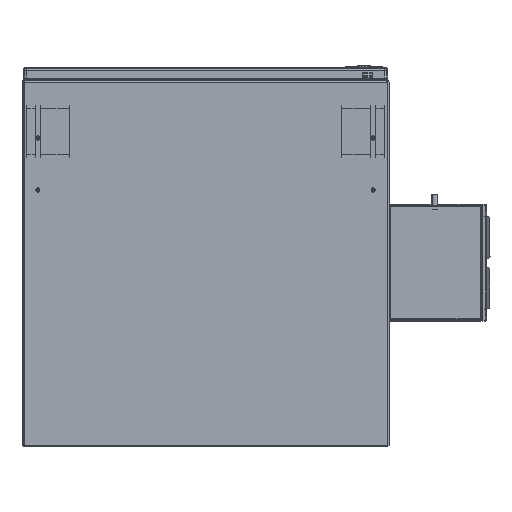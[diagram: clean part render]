
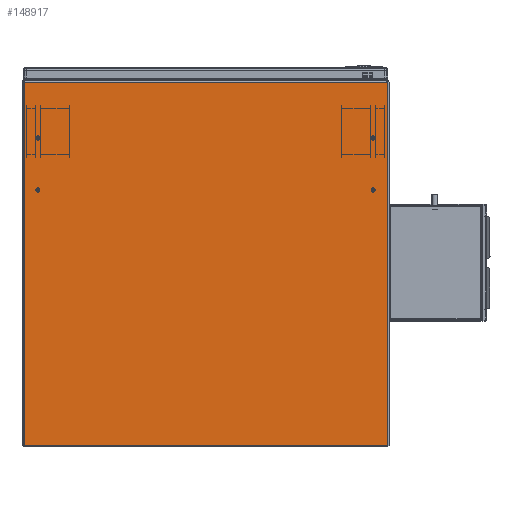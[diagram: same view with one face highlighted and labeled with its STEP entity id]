
A CAD part, front view. The second image highlights one B-rep face of the part: STEP entity #148917.
In plain terms, the highlighted planar face has unit normal (0, -1, 0).
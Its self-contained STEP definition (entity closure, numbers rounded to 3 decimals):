
#9117 = ORIENTED_EDGE ( 'NONE', *, *, #199018, .T. ) ;
#9125 = ORIENTED_EDGE ( 'NONE', *, *, #199040, .T. ) ;
#9134 = ORIENTED_EDGE ( 'NONE', *, *, #199038, .F. ) ;
#9873 = EDGE_LOOP ( 'NONE', ( #9125, #9134, #9117, #17221 ) ) ;
#17221 = ORIENTED_EDGE ( 'NONE', *, *, #199042, .T. ) ;
#20240 = VERTEX_POINT ( 'NONE', #190987 ) ;
#24899 = CARTESIAN_POINT ( 'NONE',  ( 1.753, 0., -298.946 ) ) ;
#24907 = DIRECTION ( 'NONE',  ( 1., 0., 0. ) ) ;
#24947 = CARTESIAN_POINT ( 'NONE',  ( 4.293, 0., 298.946 ) ) ;
#24953 = CARTESIAN_POINT ( 'NONE',  ( 597.892, 0., 294.653 ) ) ;
#24957 = DIRECTION ( 'NONE',  ( 0., 0., 1. ) ) ;
#24962 = DIRECTION ( 'NONE',  ( -1., 0., 0. ) ) ;
#24967 = CARTESIAN_POINT ( 'NONE',  ( 597.892, 0., -298.946 ) ) ;
#24969 = DIRECTION ( 'NONE',  ( 0., 0., 1. ) ) ;
#57161 = CARTESIAN_POINT ( 'NONE',  ( 4.293, 0., 294.653 ) ) ;
#57370 = CARTESIAN_POINT ( 'NONE',  ( 597.892, 0., 294.653 ) ) ;
#58064 = CARTESIAN_POINT ( 'NONE',  ( 4.293, 0., -298.946 ) ) ;
#67160 = LINE ( 'NONE', #24899, #67174 ) ;
#67174 = VECTOR ( 'NONE', #24907, 1000. ) ;
#67187 = LINE ( 'NONE', #24953, #67205 ) ;
#67192 = LINE ( 'NONE', #24947, #67201 ) ;
#67201 = VECTOR ( 'NONE', #24957, 1000. ) ;
#67205 = VECTOR ( 'NONE', #24962, 1000. ) ;
#67207 = LINE ( 'NONE', #24967, #67209 ) ;
#67209 = VECTOR ( 'NONE', #24969, 1000. ) ;
#139324 = VERTEX_POINT ( 'NONE', #57161 ) ;
#139802 = VERTEX_POINT ( 'NONE', #57370 ) ;
#140949 = VERTEX_POINT ( 'NONE', #58064 ) ;
#148917 = ADVANCED_FACE ( 'NONE', ( #202437 ), #194780, .F. ) ;
#190987 = CARTESIAN_POINT ( 'NONE',  ( 597.892, 0., -298.946 ) ) ;
#194779 = CARTESIAN_POINT ( 'NONE',  ( 1.753, 0., -298.946 ) ) ;
#194780 = PLANE ( 'NONE',  #200880 ) ;
#194785 = DIRECTION ( 'NONE',  ( 0., 1., 0. ) ) ;
#194786 = DIRECTION ( 'NONE',  ( -1., 0., 0. ) ) ;
#199018 = EDGE_CURVE ( 'NONE', #140949, #20240, #67160, .T. ) ;
#199038 = EDGE_CURVE ( 'NONE', #140949, #139324, #67192, .T. ) ;
#199040 = EDGE_CURVE ( 'NONE', #139802, #139324, #67187, .T. ) ;
#199042 = EDGE_CURVE ( 'NONE', #20240, #139802, #67207, .T. ) ;
#200880 = AXIS2_PLACEMENT_3D ( 'NONE', #194779, #194785, #194786 ) ;
#202437 = FACE_OUTER_BOUND ( 'NONE', #9873, .T. ) ;
